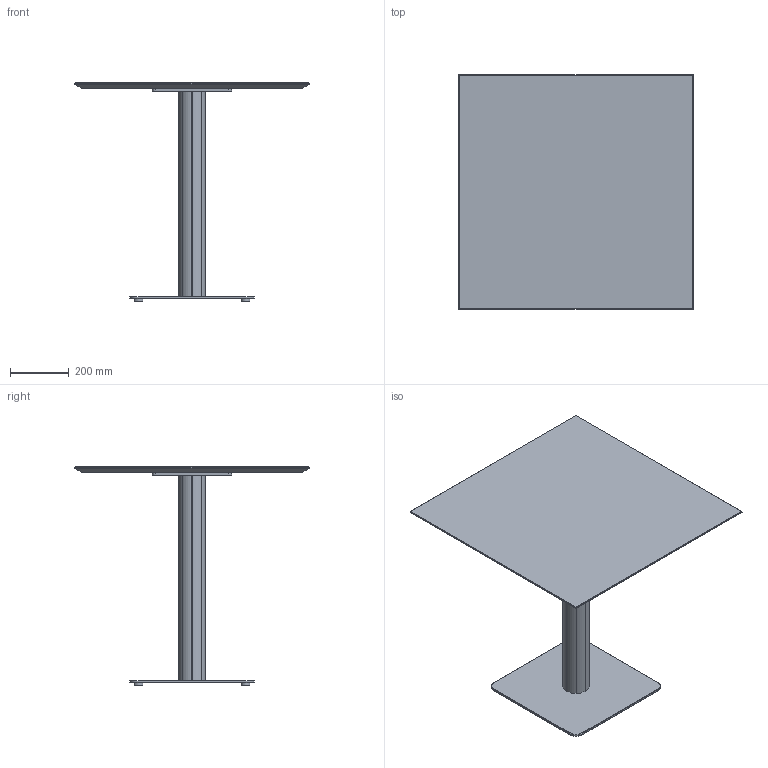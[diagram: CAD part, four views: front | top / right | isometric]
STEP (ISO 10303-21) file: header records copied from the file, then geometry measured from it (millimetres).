
FILE_DESCRIPTION( ('This file contains a STEP AP42 implementation' ,'as created by ZW3D STEP Interface translator.') ,'2;1' );
FILE_NAME( 'Fut - B_Carré - F4 - M5 - 800 x 800 x 750.stp' ,'24 911.1642 6', (''), ('ZWCAD Software Co.'), 'Version 1.0', 'ZW3D to STEP translator', '' );
FILE_SCHEMA(('AUTOMOTIVE_DESIGN { 1 0 10303 214 1 1 1 1 }'));
Length unit declared in the file: millimetre
Products named in the file (15): 0; PIED BISTROT PARAMETRIQUE_; CROIX ACIER 370 V.02_; CRX-X370-02_; SOCLE ACIER L 425x425 V.02_; SCL-R425-02_; PLA-R30A-01_; PLA-R30A-01; COLONNE ACIER Ø48.5 V.02_; TUB-D048-02_; PLA-R48A-01_; COLONNE BOIS PARAMETIQUE_; WUERTH 0276063020 Euro-screw 6.3x2 Verzinkt_; PLATEAU BISTROT PARAMETRIQUE_; insert_m6_13_
Assembly tree (23 placements, depth 3):
  0
  PIED BISTROT PARAMETRIQUE_
    CROIX ACIER 370 V.02_
      CRX-X370-02_
    SOCLE ACIER L 425x425 V.02_
      SCL-R425-02_
      PLA-R30A-01_
      PLA-R30A-01  x3
    COLONNE ACIER Ø48.5 V.02_
      TUB-D048-02_
      PLA-R48A-01_  x2
    COLONNE BOIS PARAMETIQUE_
    WUERTH 0276063020 Euro-screw 6.3x2 Verzinkt_
    PLATEAU BISTROT PARAMETRIQUE_
      insert_m6_13_  x8
Bounding box: 800 x 800 x 744 mm (x, y, z)
Volume: 17138420.9 mm3; surface area: 2469837.2 mm2
Topology: 23 solids, 23 shells, 557 faces, 1354 edges, 850 vertices
Faces by surface type: plane 282, bspline 125, cylinder 104, cone 45, torus 1
Full cylindrical faces by diameter (mm): 4.88 x1, 6 x8, 6.3 x1, 8 x45, 12 x2, 14 x2, 30 x4, 44.5 x3, 48.5 x1
Entity records: 13027 total; most frequent: CARTESIAN_POINT 3533, ORIENTED_EDGE 1722, DIRECTION 1612, EDGE_CURVE 861, VECTOR 554, LINE 554, VERTEX_POINT 552, AXIS2_PLACEMENT_3D 529
